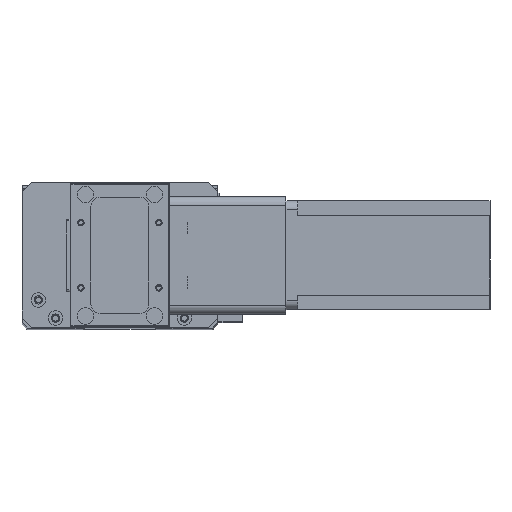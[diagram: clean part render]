
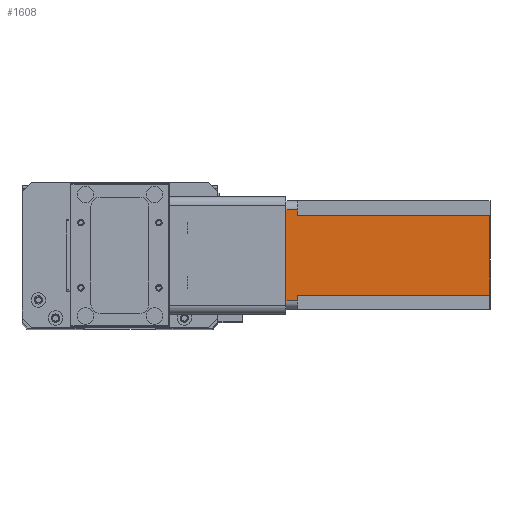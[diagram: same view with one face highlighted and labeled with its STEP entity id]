
A CAD part, top view. The second image highlights one B-rep face of the part: STEP entity #1608.
In plain terms, the highlighted planar face has unit normal (0, 0, 1) as drawn and (0, 1, 0) by its records, which use the part's own axes.
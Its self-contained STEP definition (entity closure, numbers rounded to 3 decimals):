
#385 = VERTEX_POINT ( 'NONE', #11360 ) ;
#631 = ORIENTED_EDGE ( 'NONE', *, *, #17501, .T. ) ;
#922 = VECTOR ( 'NONE', #14744, 1000. ) ;
#1442 = CARTESIAN_POINT ( 'NONE',  ( 8., 60., -6.5 ) ) ;
#1608 = ADVANCED_FACE ( 'NONE', ( #21236 ), #8251, .T. ) ;
#2154 = CARTESIAN_POINT ( 'NONE',  ( 5., 60., -112.5 ) ) ;
#2187 = VERTEX_POINT ( 'NONE', #20681 ) ;
#2516 = CARTESIAN_POINT ( 'NONE',  ( 8., 60., -6.5 ) ) ;
#3317 = VECTOR ( 'NONE', #16444, 1000. ) ;
#3472 = LINE ( 'NONE', #3774, #19558 ) ;
#3774 = CARTESIAN_POINT ( 'NONE',  ( 0., 60., -112.5 ) ) ;
#4151 = DIRECTION ( 'NONE',  ( 0., 0., 1. ) ) ;
#4472 = VERTEX_POINT ( 'NONE', #5015 ) ;
#5015 = CARTESIAN_POINT ( 'NONE',  ( 5., 60., -6.5 ) ) ;
#5523 = ORIENTED_EDGE ( 'NONE', *, *, #19696, .T. ) ;
#5531 = ORIENTED_EDGE ( 'NONE', *, *, #23652, .F. ) ;
#5856 = EDGE_CURVE ( 'NONE', #385, #12895, #6519, .T. ) ;
#6241 = CARTESIAN_POINT ( 'NONE',  ( 0., 60., -112.5 ) ) ;
#6519 = LINE ( 'NONE', #22320, #10628 ) ;
#7304 = AXIS2_PLACEMENT_3D ( 'NONE', #6241, #12280, #10309 ) ;
#7519 = CARTESIAN_POINT ( 'NONE',  ( 55., 60., -6.5 ) ) ;
#8074 = VECTOR ( 'NONE', #15217, 1000. ) ;
#8159 = EDGE_LOOP ( 'NONE', ( #22951, #5523, #25645, #5531, #25184, #11871, #631, #18578 ) ) ;
#8251 = PLANE ( 'NONE',  #7304 ) ;
#8735 = VERTEX_POINT ( 'NONE', #11327 ) ;
#9310 = LINE ( 'NONE', #10432, #3317 ) ;
#9506 = EDGE_CURVE ( 'NONE', #21708, #2187, #3472, .T. ) ;
#10309 = DIRECTION ( 'NONE',  ( 0., 0., 1. ) ) ;
#10432 = CARTESIAN_POINT ( 'NONE',  ( 52., 60., -112.5 ) ) ;
#10537 = VECTOR ( 'NONE', #18651, 1000. ) ;
#10628 = VECTOR ( 'NONE', #18324, 1000. ) ;
#10747 = LINE ( 'NONE', #21956, #25577 ) ;
#11147 = CARTESIAN_POINT ( 'NONE',  ( 0., 60., 0. ) ) ;
#11280 = LINE ( 'NONE', #2154, #21361 ) ;
#11327 = CARTESIAN_POINT ( 'NONE',  ( 55., 60., 0. ) ) ;
#11360 = CARTESIAN_POINT ( 'NONE',  ( 52., 60., -6.5 ) ) ;
#11650 = LINE ( 'NONE', #22843, #922 ) ;
#11871 = ORIENTED_EDGE ( 'NONE', *, *, #21855, .F. ) ;
#12280 = DIRECTION ( 'NONE',  ( 0., 1., 0. ) ) ;
#12895 = VERTEX_POINT ( 'NONE', #7519 ) ;
#14301 = CARTESIAN_POINT ( 'NONE',  ( 52., 60., -112.5 ) ) ;
#14744 = DIRECTION ( 'NONE',  ( 0., 0., -1. ) ) ;
#15217 = DIRECTION ( 'NONE',  ( -1., 0., 0. ) ) ;
#16207 = EDGE_CURVE ( 'NONE', #4472, #17678, #11280, .T. ) ;
#16444 = DIRECTION ( 'NONE',  ( 0., 0., 1. ) ) ;
#16939 = LINE ( 'NONE', #11147, #8074 ) ;
#17501 = EDGE_CURVE ( 'NONE', #18273, #4472, #19990, .T. ) ;
#17678 = VERTEX_POINT ( 'NONE', #23139 ) ;
#17881 = DIRECTION ( 'NONE',  ( -1., 0., 0. ) ) ;
#18273 = VERTEX_POINT ( 'NONE', #1442 ) ;
#18324 = DIRECTION ( 'NONE',  ( 1., 0., 0. ) ) ;
#18578 = ORIENTED_EDGE ( 'NONE', *, *, #16207, .T. ) ;
#18651 = DIRECTION ( 'NONE',  ( -1., 0., 0. ) ) ;
#19558 = VECTOR ( 'NONE', #17881, 1000. ) ;
#19696 = EDGE_CURVE ( 'NONE', #8735, #12895, #10747, .T. ) ;
#19990 = LINE ( 'NONE', #2516, #10537 ) ;
#20681 = CARTESIAN_POINT ( 'NONE',  ( 8., 60., -112.5 ) ) ;
#21236 = FACE_OUTER_BOUND ( 'NONE', #8159, .T. ) ;
#21361 = VECTOR ( 'NONE', #4151, 1000. ) ;
#21708 = VERTEX_POINT ( 'NONE', #14301 ) ;
#21855 = EDGE_CURVE ( 'NONE', #18273, #2187, #11650, .T. ) ;
#21956 = CARTESIAN_POINT ( 'NONE',  ( 55., 60., -112.5 ) ) ;
#22320 = CARTESIAN_POINT ( 'NONE',  ( 52., 60., -6.5 ) ) ;
#22843 = CARTESIAN_POINT ( 'NONE',  ( 8., 60., -112.5 ) ) ;
#22951 = ORIENTED_EDGE ( 'NONE', *, *, #23258, .F. ) ;
#23139 = CARTESIAN_POINT ( 'NONE',  ( 5., 60., 0. ) ) ;
#23258 = EDGE_CURVE ( 'NONE', #8735, #17678, #16939, .T. ) ;
#23652 = EDGE_CURVE ( 'NONE', #21708, #385, #9310, .T. ) ;
#23890 = DIRECTION ( 'NONE',  ( 0., 0., -1. ) ) ;
#25184 = ORIENTED_EDGE ( 'NONE', *, *, #9506, .T. ) ;
#25577 = VECTOR ( 'NONE', #23890, 1000. ) ;
#25645 = ORIENTED_EDGE ( 'NONE', *, *, #5856, .F. ) ;
